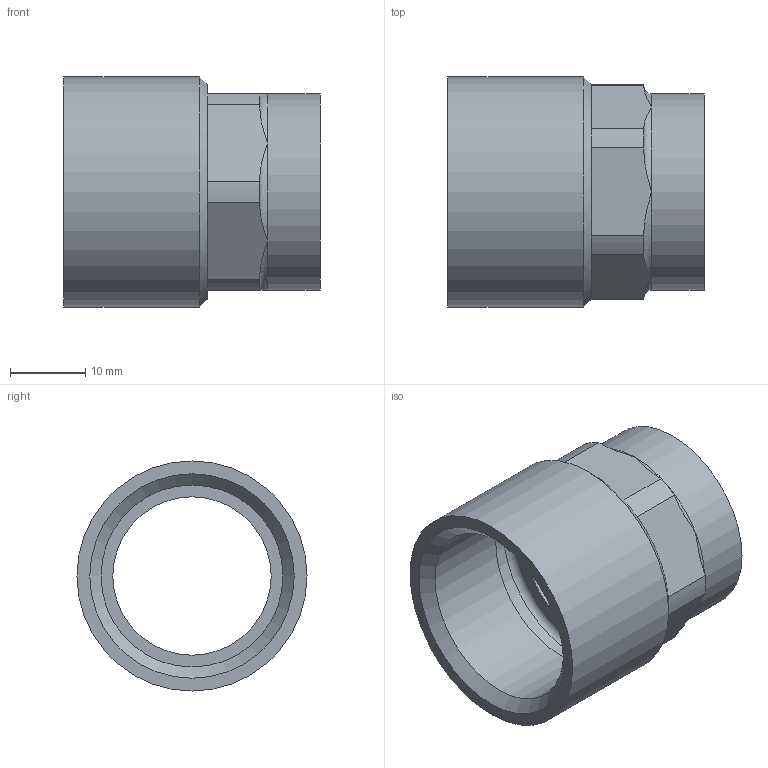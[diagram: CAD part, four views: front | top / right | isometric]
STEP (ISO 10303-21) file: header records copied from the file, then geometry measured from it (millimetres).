
FILE_DESCRIPTION((''),'2;1');
FILE_NAME('C:\Documents and Settings\pajchrowski\Desktop\STEP\14270_22-34(2).stp','2009-02-02T13:21:57',('pajchrowski'),(''),'Autodesk Inventor 2009','Autodesk Inventor 2009','');
FILE_SCHEMA(('AUTOMOTIVE_DESIGN { 1 0 10303 214 1 1 1 1 }'));
Length unit declared in the file: millimetre
Products named in the file (1): 14270_22-34(2)
Bounding box: 34 x 30.5 x 30.5 mm (x, y, z)
Volume: 7636.7 mm3; surface area: 6301 mm2
Topology: 1 solids, 1 shells, 44 faces, 97 edges, 57 vertices
Faces by surface type: plane 22, cylinder 12, bspline 6, cone 3, torus 1
Full cylindrical faces by diameter (mm): 21 x1, 22 x1, 24.117 x1, 26 x1, 26.441 x1, 30.5 x1
Entity records: 1294 total; most frequent: CARTESIAN_POINT 365, DIRECTION 194, ORIENTED_EDGE 170, EDGE_CURVE 85, AXIS2_PLACEMENT_3D 82, EDGE_LOOP 58, VERTEX_POINT 55, FACE_OUTER_BOUND 44
